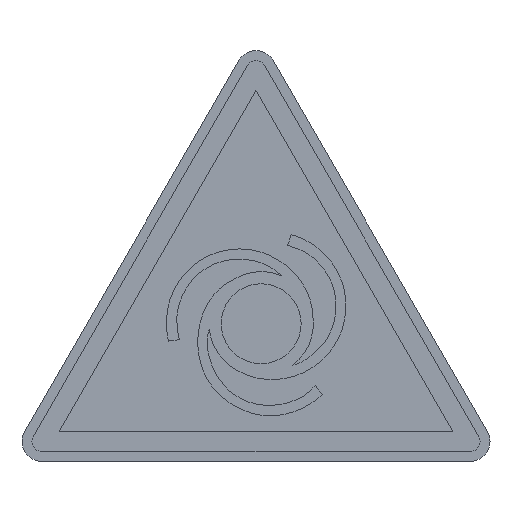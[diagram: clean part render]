
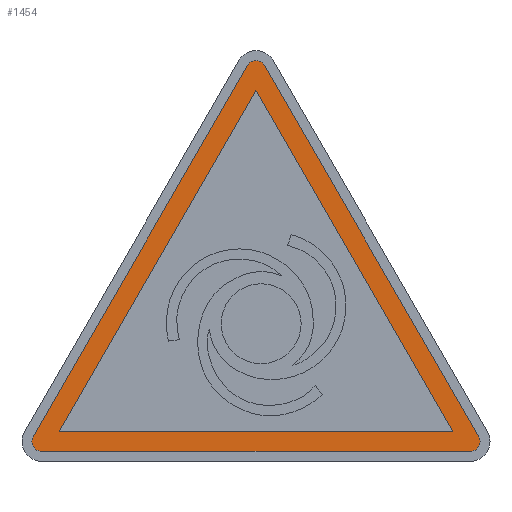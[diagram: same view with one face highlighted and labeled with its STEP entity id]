
A CAD part, top view. The second image highlights one B-rep face of the part: STEP entity #1454.
In plain terms, the highlighted planar face has unit normal (0, 0, 1).
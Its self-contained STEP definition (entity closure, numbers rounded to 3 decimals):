
#28 = VERTEX_POINT ( 'NONE', #511 ) ;
#47 = DIRECTION ( 'NONE',  ( 0., 0., 1. ) ) ;
#65 = CARTESIAN_POINT ( 'NONE',  ( -0.866, 39.801, 0.22 ) ) ;
#72 = LINE ( 'NONE', #1243, #1445 ) ;
#79 = VECTOR ( 'NONE', #423, 1000. ) ;
#99 = EDGE_CURVE ( 'NONE', #979, #314, #1019, .T. ) ;
#181 = CARTESIAN_POINT ( 'NONE',  ( 22.402, 2.5, 0.22 ) ) ;
#182 = DIRECTION ( 'NONE',  ( -0.5, -0.866, 0. ) ) ;
#192 = AXIS2_PLACEMENT_3D ( 'NONE', #1321, #1059, #790 ) ;
#196 = PLANE ( 'NONE',  #1296 ) ;
#220 = ORIENTED_EDGE ( 'NONE', *, *, #1140, .T. ) ;
#224 = ORIENTED_EDGE ( 'NONE', *, *, #459, .F. ) ;
#247 = DIRECTION ( 'NONE',  ( 1., 0., 0. ) ) ;
#285 = EDGE_CURVE ( 'NONE', #329, #1622, #1281, .T. ) ;
#304 = FACE_OUTER_BOUND ( 'NONE', #841, .T. ) ;
#314 = VERTEX_POINT ( 'NONE', #1546 ) ;
#329 = VERTEX_POINT ( 'NONE', #1143 ) ;
#336 = VECTOR ( 'NONE', #182, 1000. ) ;
#338 = ORIENTED_EDGE ( 'NONE', *, *, #926, .T. ) ;
#346 = ORIENTED_EDGE ( 'NONE', *, *, #911, .T. ) ;
#353 = CARTESIAN_POINT ( 'NONE',  ( 0., 39.301, 0.22 ) ) ;
#369 = ORIENTED_EDGE ( 'NONE', *, *, #992, .F. ) ;
#420 = ORIENTED_EDGE ( 'NONE', *, *, #638, .T. ) ;
#423 = DIRECTION ( 'NONE',  ( 1., 0., 0. ) ) ;
#439 = ORIENTED_EDGE ( 'NONE', *, *, #871, .T. ) ;
#459 = EDGE_CURVE ( 'NONE', #1622, #657, #1005, .T. ) ;
#482 = CARTESIAN_POINT ( 'NONE',  ( 0., 37.301, 0.22 ) ) ;
#497 = EDGE_LOOP ( 'NONE', ( #224, #1330, #369 ) ) ;
#511 = CARTESIAN_POINT ( 'NONE',  ( -22.536, 2., 0.22 ) ) ;
#534 = DIRECTION ( 'NONE',  ( 0., 0., 1. ) ) ;
#538 = VERTEX_POINT ( 'NONE', #181 ) ;
#558 = DIRECTION ( 'NONE',  ( 0., 0., 1. ) ) ;
#563 = CARTESIAN_POINT ( 'NONE',  ( 21.536, 1., 0.22 ) ) ;
#567 = DIRECTION ( 'NONE',  ( 1., 0., 0. ) ) ;
#581 = AXIS2_PLACEMENT_3D ( 'NONE', #1438, #534, #651 ) ;
#612 = VECTOR ( 'NONE', #247, 1000. ) ;
#624 = EDGE_CURVE ( 'NONE', #889, #28, #912, .T. ) ;
#638 = EDGE_CURVE ( 'NONE', #977, #922, #1580, .T. ) ;
#651 = DIRECTION ( 'NONE',  ( 1., 0., 0. ) ) ;
#657 = VERTEX_POINT ( 'NONE', #1191 ) ;
#685 = DIRECTION ( 'NONE',  ( 1., 0., 0. ) ) ;
#697 = CARTESIAN_POINT ( 'NONE',  ( -21.536, 2., 0.22 ) ) ;
#727 = CARTESIAN_POINT ( 'NONE',  ( 0.866, 39.801, 0.22 ) ) ;
#774 = VECTOR ( 'NONE', #1566, 1000. ) ;
#790 = DIRECTION ( 'NONE',  ( 1., 0., 0. ) ) ;
#810 = CIRCLE ( 'NONE', #581, 1. ) ;
#816 = DIRECTION ( 'NONE',  ( -0.5, 0.866, 0. ) ) ;
#817 = DIRECTION ( 'NONE',  ( 1., 0., 0. ) ) ;
#821 = CARTESIAN_POINT ( 'NONE',  ( -22.402, 2.5, 0.22 ) ) ;
#841 = EDGE_LOOP ( 'NONE', ( #949, #338, #1050, #346, #420, #220, #439 ) ) ;
#871 = EDGE_CURVE ( 'NONE', #538, #979, #1054, .T. ) ;
#883 = DIRECTION ( 'NONE',  ( -0.5, -0.866, 0. ) ) ;
#889 = VERTEX_POINT ( 'NONE', #821 ) ;
#911 = EDGE_CURVE ( 'NONE', #28, #977, #921, .T. ) ;
#912 = CIRCLE ( 'NONE', #192, 1. ) ;
#918 = CARTESIAN_POINT ( 'NONE',  ( -21.536, 1., 0.22 ) ) ;
#921 = CIRCLE ( 'NONE', #1329, 1. ) ;
#922 = VERTEX_POINT ( 'NONE', #563 ) ;
#926 = EDGE_CURVE ( 'NONE', #314, #889, #1214, .T. ) ;
#949 = ORIENTED_EDGE ( 'NONE', *, *, #99, .T. ) ;
#977 = VERTEX_POINT ( 'NONE', #984 ) ;
#979 = VERTEX_POINT ( 'NONE', #727 ) ;
#984 = CARTESIAN_POINT ( 'NONE',  ( -21.536, 1., 0.22 ) ) ;
#992 = EDGE_CURVE ( 'NONE', #657, #329, #72, .T. ) ;
#1005 = LINE ( 'NONE', #1537, #612 ) ;
#1019 = CIRCLE ( 'NONE', #1124, 1. ) ;
#1050 = ORIENTED_EDGE ( 'NONE', *, *, #624, .T. ) ;
#1054 = LINE ( 'NONE', #1324, #774 ) ;
#1059 = DIRECTION ( 'NONE',  ( 0., 0., 1. ) ) ;
#1080 = CARTESIAN_POINT ( 'NONE',  ( 0., 39.301, 0.22 ) ) ;
#1124 = AXIS2_PLACEMENT_3D ( 'NONE', #353, #47, #817 ) ;
#1140 = EDGE_CURVE ( 'NONE', #922, #538, #810, .T. ) ;
#1143 = CARTESIAN_POINT ( 'NONE',  ( 0., 37.301, 0.22 ) ) ;
#1184 = CARTESIAN_POINT ( 'NONE',  ( -19.804, 3., 0.22 ) ) ;
#1191 = CARTESIAN_POINT ( 'NONE',  ( 19.804, 3., 0.22 ) ) ;
#1214 = LINE ( 'NONE', #65, #336 ) ;
#1243 = CARTESIAN_POINT ( 'NONE',  ( 19.804, 3., 0.22 ) ) ;
#1281 = LINE ( 'NONE', #482, #1576 ) ;
#1296 = AXIS2_PLACEMENT_3D ( 'NONE', #1080, #558, #567 ) ;
#1321 = CARTESIAN_POINT ( 'NONE',  ( -21.536, 2., 0.22 ) ) ;
#1324 = CARTESIAN_POINT ( 'NONE',  ( 22.402, 2.5, 0.22 ) ) ;
#1329 = AXIS2_PLACEMENT_3D ( 'NONE', #697, #1620, #685 ) ;
#1330 = ORIENTED_EDGE ( 'NONE', *, *, #285, .F. ) ;
#1438 = CARTESIAN_POINT ( 'NONE',  ( 21.536, 2., 0.22 ) ) ;
#1445 = VECTOR ( 'NONE', #816, 1000. ) ;
#1454 = ADVANCED_FACE ( 'NONE', ( #304, #1616 ), #196, .T. ) ;
#1537 = CARTESIAN_POINT ( 'NONE',  ( -19.804, 3., 0.22 ) ) ;
#1546 = CARTESIAN_POINT ( 'NONE',  ( -0.866, 39.801, 0.22 ) ) ;
#1566 = DIRECTION ( 'NONE',  ( -0.5, 0.866, 0. ) ) ;
#1576 = VECTOR ( 'NONE', #883, 1000. ) ;
#1580 = LINE ( 'NONE', #918, #79 ) ;
#1616 = FACE_BOUND ( 'NONE', #497, .T. ) ;
#1620 = DIRECTION ( 'NONE',  ( 0., 0., 1. ) ) ;
#1622 = VERTEX_POINT ( 'NONE', #1184 ) ;
